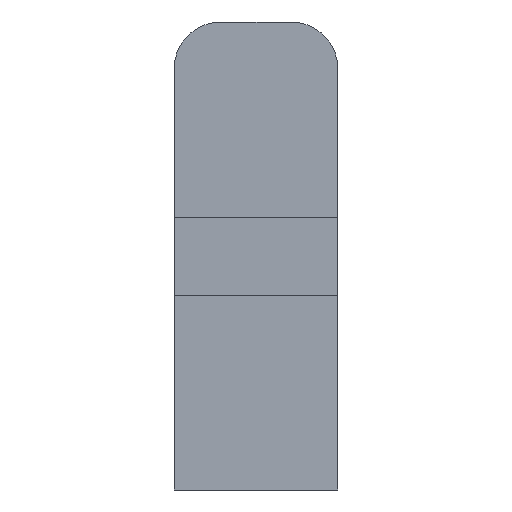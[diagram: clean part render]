
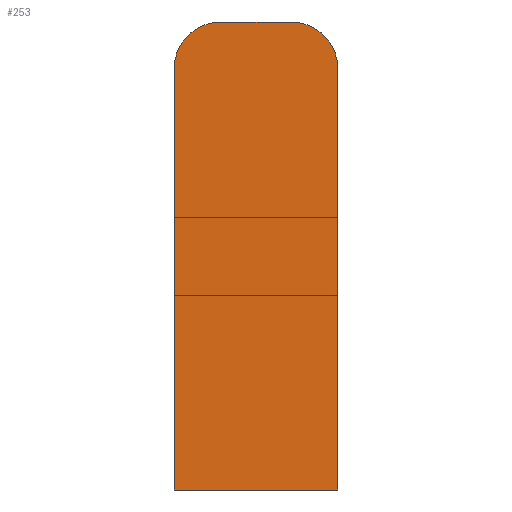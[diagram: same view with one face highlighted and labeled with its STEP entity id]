
A CAD part, front view. The second image highlights one B-rep face of the part: STEP entity #253.
In plain terms, the highlighted planar face has unit normal (0, -1, 0).
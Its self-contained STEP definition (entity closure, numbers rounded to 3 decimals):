
#11 = VERTEX_POINT ( 'NONE', #538 ) ;
#16 = VERTEX_POINT ( 'NONE', #36 ) ;
#19 = VERTEX_POINT ( 'NONE', #38 ) ;
#24 = VERTEX_POINT ( 'NONE', #43 ) ;
#25 = VERTEX_POINT ( 'NONE', #44 ) ;
#36 = CARTESIAN_POINT ( 'NONE',  ( -5.25, 0., 10.5 ) ) ;
#38 = CARTESIAN_POINT ( 'NONE',  ( 2.25, 0., 13.5 ) ) ;
#43 = CARTESIAN_POINT ( 'NONE',  ( 5.25, 0., -16.5 ) ) ;
#44 = CARTESIAN_POINT ( 'NONE',  ( 5.25, 0., 10.5 ) ) ;
#45 = CARTESIAN_POINT ( 'NONE',  ( -5.25, 0., -16.5 ) ) ;
#48 = PLANE ( 'NONE',  #316 ) ;
#52 = CARTESIAN_POINT ( 'NONE',  ( 0., 0., -1.5 ) ) ;
#59 = DIRECTION ( 'NONE',  ( 0., 1., 0. ) ) ;
#60 = DIRECTION ( 'NONE',  ( -1., 0., 0. ) ) ;
#63 = VERTEX_POINT ( 'NONE', #45 ) ;
#64 = CARTESIAN_POINT ( 'NONE',  ( -2.25, 0., 10.5 ) ) ;
#65 = CARTESIAN_POINT ( 'NONE',  ( 5.25, 0., -16.5 ) ) ;
#81 = DIRECTION ( 'NONE',  ( 0., -1., 0. ) ) ;
#82 = DIRECTION ( 'NONE',  ( -1., 0., 0. ) ) ;
#90 = DIRECTION ( 'NONE',  ( 1., 0., 0. ) ) ;
#103 = CARTESIAN_POINT ( 'NONE',  ( -5.25, 0., -16.5 ) ) ;
#112 = DIRECTION ( 'NONE',  ( 0., 0., -1. ) ) ;
#116 = CARTESIAN_POINT ( 'NONE',  ( 2.25, 0., 10.5 ) ) ;
#124 = DIRECTION ( 'NONE',  ( 0., -1., 0. ) ) ;
#125 = DIRECTION ( 'NONE',  ( -1., 0., 0. ) ) ;
#139 = CARTESIAN_POINT ( 'NONE',  ( 2.25, 0., 13.5 ) ) ;
#140 = DIRECTION ( 'NONE',  ( -1., 0., 0. ) ) ;
#171 = CARTESIAN_POINT ( 'NONE',  ( 5.25, 0., -16.5 ) ) ;
#172 = DIRECTION ( 'NONE',  ( 0., 0., 1. ) ) ;
#253 = ADVANCED_FACE ( 'NONE', ( #527 ), #48, .F. ) ;
#267 = EDGE_CURVE ( 'NONE', #11, #16, #502, .T. ) ;
#276 = EDGE_CURVE ( 'NONE', #63, #24, #394, .T. ) ;
#289 = EDGE_CURVE ( 'NONE', #16, #63, #478, .T. ) ;
#306 = EDGE_CURVE ( 'NONE', #25, #19, #410, .T. ) ;
#311 = AXIS2_PLACEMENT_3D ( 'NONE', #116, #124, #125 ) ;
#312 = AXIS2_PLACEMENT_3D ( 'NONE', #64, #81, #82 ) ;
#316 = AXIS2_PLACEMENT_3D ( 'NONE', #52, #59, #60 ) ;
#320 = EDGE_CURVE ( 'NONE', #19, #11, #578, .T. ) ;
#338 = EDGE_CURVE ( 'NONE', #24, #25, #563, .T. ) ;
#394 = LINE ( 'NONE', #65, #494 ) ;
#400 = ORIENTED_EDGE ( 'NONE', *, *, #320, .T. ) ;
#410 = CIRCLE ( 'NONE', #311, 3. ) ;
#418 = ORIENTED_EDGE ( 'NONE', *, *, #338, .T. ) ;
#453 = ORIENTED_EDGE ( 'NONE', *, *, #276, .T. ) ;
#454 = ORIENTED_EDGE ( 'NONE', *, *, #289, .T. ) ;
#475 = EDGE_LOOP ( 'NONE', ( #418, #521, #400, #485, #454, #453 ) ) ;
#478 = LINE ( 'NONE', #103, #491 ) ;
#485 = ORIENTED_EDGE ( 'NONE', *, *, #267, .T. ) ;
#491 = VECTOR ( 'NONE', #112, 1000. ) ;
#494 = VECTOR ( 'NONE', #90, 1000. ) ;
#502 = CIRCLE ( 'NONE', #312, 3. ) ;
#521 = ORIENTED_EDGE ( 'NONE', *, *, #306, .T. ) ;
#527 = FACE_OUTER_BOUND ( 'NONE', #475, .T. ) ;
#538 = CARTESIAN_POINT ( 'NONE',  ( -2.25, 0., 13.5 ) ) ;
#556 = VECTOR ( 'NONE', #140, 1000. ) ;
#563 = LINE ( 'NONE', #171, #593 ) ;
#578 = LINE ( 'NONE', #139, #556 ) ;
#593 = VECTOR ( 'NONE', #172, 1000. ) ;
